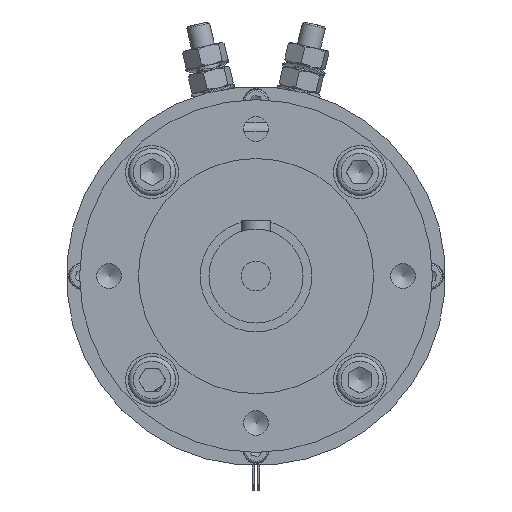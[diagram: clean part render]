
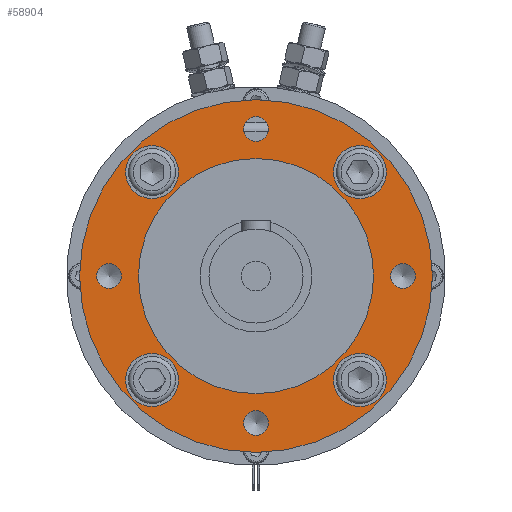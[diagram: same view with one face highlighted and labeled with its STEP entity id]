
A CAD part, front view. The second image highlights one B-rep face of the part: STEP entity #58904.
In plain terms, the highlighted planar face has unit normal (0, -1, 0).
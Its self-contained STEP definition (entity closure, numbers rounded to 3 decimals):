
#375=FACE_BOUND('',#7197,.T.);
#376=FACE_BOUND('',#7198,.T.);
#377=FACE_BOUND('',#7199,.T.);
#378=FACE_BOUND('',#7200,.T.);
#379=FACE_BOUND('',#7201,.T.);
#380=FACE_BOUND('',#7202,.T.);
#381=FACE_BOUND('',#7203,.T.);
#382=FACE_BOUND('',#7204,.T.);
#383=FACE_BOUND('',#7205,.T.);
#1326=PLANE('',#62261);
#4162=FACE_OUTER_BOUND('',#7196,.T.);
#7196=EDGE_LOOP('',(#39980));
#7197=EDGE_LOOP('',(#39981));
#7198=EDGE_LOOP('',(#39982));
#7199=EDGE_LOOP('',(#39983));
#7200=EDGE_LOOP('',(#39984));
#7201=EDGE_LOOP('',(#39985));
#7202=EDGE_LOOP('',(#39986));
#7203=EDGE_LOOP('',(#39987));
#7204=EDGE_LOOP('',(#39988));
#7205=EDGE_LOOP('',(#39989));
#21587=CIRCLE('',#62192,9.);
#21590=CIRCLE('',#62198,9.);
#21593=CIRCLE('',#62204,9.);
#21596=CIRCLE('',#62210,9.);
#21608=CIRCLE('',#62233,4.188);
#21610=CIRCLE('',#62237,4.188);
#21612=CIRCLE('',#62241,4.188);
#21614=CIRCLE('',#62245,4.188);
#21623=CIRCLE('',#62260,60.);
#21624=CIRCLE('',#62262,40.);
#24505=VERTEX_POINT('',#85944);
#24508=VERTEX_POINT('',#85955);
#24511=VERTEX_POINT('',#85966);
#24514=VERTEX_POINT('',#85977);
#24529=VERTEX_POINT('',#86024);
#24532=VERTEX_POINT('',#86033);
#24535=VERTEX_POINT('',#86042);
#24538=VERTEX_POINT('',#86051);
#24543=VERTEX_POINT('',#86074);
#24544=VERTEX_POINT('',#86078);
#30340=EDGE_CURVE('',#24505,#24505,#21587,.T.);
#30345=EDGE_CURVE('',#24508,#24508,#21590,.T.);
#30350=EDGE_CURVE('',#24511,#24511,#21593,.T.);
#30355=EDGE_CURVE('',#24514,#24514,#21596,.T.);
#30376=EDGE_CURVE('',#24529,#24529,#21608,.T.);
#30380=EDGE_CURVE('',#24532,#24532,#21610,.T.);
#30384=EDGE_CURVE('',#24535,#24535,#21612,.T.);
#30388=EDGE_CURVE('',#24538,#24538,#21614,.T.);
#30400=EDGE_CURVE('',#24543,#24543,#21623,.T.);
#30402=EDGE_CURVE('',#24544,#24544,#21624,.T.);
#39980=ORIENTED_EDGE('',*,*,#30400,.T.);
#39981=ORIENTED_EDGE('',*,*,#30340,.T.);
#39982=ORIENTED_EDGE('',*,*,#30345,.T.);
#39983=ORIENTED_EDGE('',*,*,#30350,.T.);
#39984=ORIENTED_EDGE('',*,*,#30355,.T.);
#39985=ORIENTED_EDGE('',*,*,#30376,.T.);
#39986=ORIENTED_EDGE('',*,*,#30380,.T.);
#39987=ORIENTED_EDGE('',*,*,#30384,.T.);
#39988=ORIENTED_EDGE('',*,*,#30388,.T.);
#39989=ORIENTED_EDGE('',*,*,#30402,.F.);
#58904=ADVANCED_FACE('',(#4162,#375,#376,#377,#378,#379,#380,#381,#382,
#383),#1326,.T.);
#62192=AXIS2_PLACEMENT_3D('',#85945,#69021,#69022);
#62198=AXIS2_PLACEMENT_3D('',#85956,#69035,#69036);
#62204=AXIS2_PLACEMENT_3D('',#85967,#69049,#69050);
#62210=AXIS2_PLACEMENT_3D('',#85978,#69063,#69064);
#62233=AXIS2_PLACEMENT_3D('',#86025,#69118,#69119);
#62237=AXIS2_PLACEMENT_3D('',#86034,#69128,#69129);
#62241=AXIS2_PLACEMENT_3D('',#86043,#69138,#69139);
#62245=AXIS2_PLACEMENT_3D('',#86052,#69148,#69149);
#62260=AXIS2_PLACEMENT_3D('',#86075,#69181,#69182);
#62261=AXIS2_PLACEMENT_3D('',#86077,#69184,#69185);
#62262=AXIS2_PLACEMENT_3D('',#86079,#69186,#69187);
#69021=DIRECTION('center_axis',(0.,1.,0.));
#69022=DIRECTION('ref_axis',(0.,0.,
1.));
#69035=DIRECTION('center_axis',(0.,1.,0.));
#69036=DIRECTION('ref_axis',(1.,0.,0.));
#69049=DIRECTION('center_axis',(0.,1.,0.));
#69050=DIRECTION('ref_axis',(0.,0.,
-1.));
#69063=DIRECTION('center_axis',(0.,1.,0.));
#69064=DIRECTION('ref_axis',(-1.,0.,0.));
#69118=DIRECTION('center_axis',(0.,1.,0.));
#69119=DIRECTION('ref_axis',(0.,0.,
1.));
#69128=DIRECTION('center_axis',(0.,1.,0.));
#69129=DIRECTION('ref_axis',(1.,0.,0.));
#69138=DIRECTION('center_axis',(0.,1.,0.));
#69139=DIRECTION('ref_axis',(0.,0.,
-1.));
#69148=DIRECTION('center_axis',(0.,1.,0.));
#69149=DIRECTION('ref_axis',(-1.,0.,0.));
#69181=DIRECTION('center_axis',(0.,-1.,0.));
#69182=DIRECTION('ref_axis',(0.,0.,
1.));
#69184=DIRECTION('center_axis',(0.,-1.,0.));
#69185=DIRECTION('ref_axis',(0.,0.,
1.));
#69186=DIRECTION('center_axis',(0.,-1.,0.));
#69187=DIRECTION('ref_axis',(0.,0.,
1.));
#85944=CARTESIAN_POINT('',(35.355,-120.9,-44.355));
#85945=CARTESIAN_POINT('Origin',(35.355,-120.9,-35.355));
#85955=CARTESIAN_POINT('',(-44.355,-120.9,-35.355));
#85956=CARTESIAN_POINT('Origin',(-35.355,-120.9,-35.355));
#85966=CARTESIAN_POINT('',(-35.355,-120.9,44.355));
#85967=CARTESIAN_POINT('Origin',(-35.355,-120.9,35.355));
#85977=CARTESIAN_POINT('',(44.355,-120.9,35.355));
#85978=CARTESIAN_POINT('Origin',(35.355,-120.9,35.355));
#86024=CARTESIAN_POINT('',(-50.,-120.9,-4.188));
#86025=CARTESIAN_POINT('Origin',(-50.,-120.9,0.));
#86033=CARTESIAN_POINT('',(-4.188,-120.9,50.));
#86034=CARTESIAN_POINT('Origin',(0.,-120.9,50.));
#86042=CARTESIAN_POINT('',(50.,-120.9,4.188));
#86043=CARTESIAN_POINT('Origin',(50.,-120.9,0.));
#86051=CARTESIAN_POINT('',(4.188,-120.9,-50.));
#86052=CARTESIAN_POINT('Origin',(0.,-120.9,-50.));
#86074=CARTESIAN_POINT('',(0.,-120.9,-60.));
#86075=CARTESIAN_POINT('Origin',(0.,-120.9,0.));
#86077=CARTESIAN_POINT('Origin',(0.,-120.9,50.));
#86078=CARTESIAN_POINT('',(0.,-120.9,-40.));
#86079=CARTESIAN_POINT('Origin',(0.,-120.9,0.));
